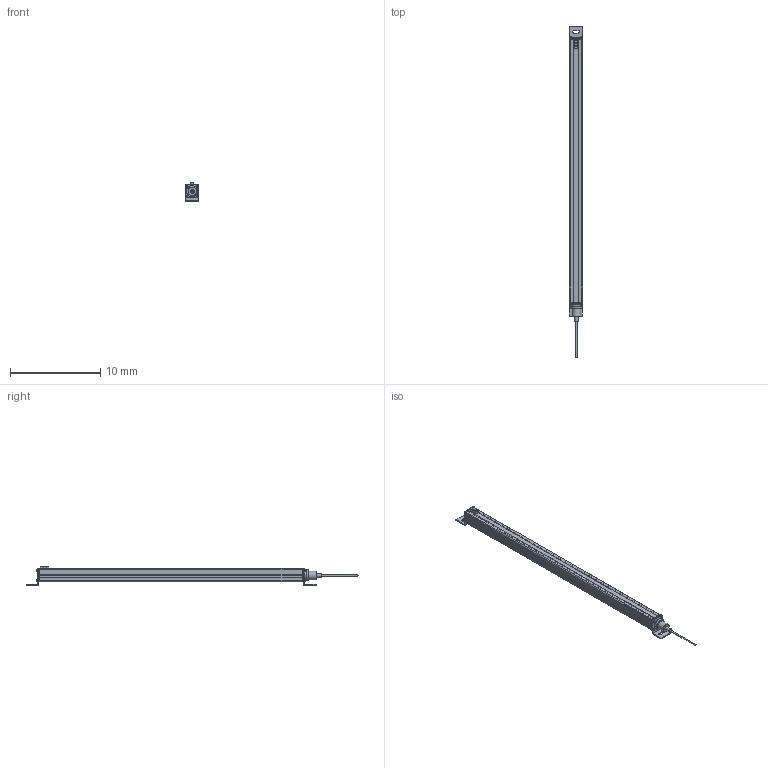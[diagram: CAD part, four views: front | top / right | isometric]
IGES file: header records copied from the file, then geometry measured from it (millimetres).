
Start section:  Autodesk DirectConnect version 7.0.27.0 ---- IGES version 5.3
Global section: file name: C:\ACADFILES\MG_PYLONS\CUSTOMER_FILES\MG-28-PYLON_3D_L.iges; native system: Autodesk DirectConnect 7.0.27.0; preprocessor: 7.0.27.0; author: ENGINEERMAIN; organization: Unknown; date: 20150810.133447; units: millimetre
Bounding box: 1.46 x 36.85 x 2.11 mm (x, y, z)
Surface area: 461.8 mm2 (no closed solid volume)
Topology: 0 solids, 0 shells, 630 faces, 3369 edges, 3383 vertices
Faces by surface type: bspline 630
